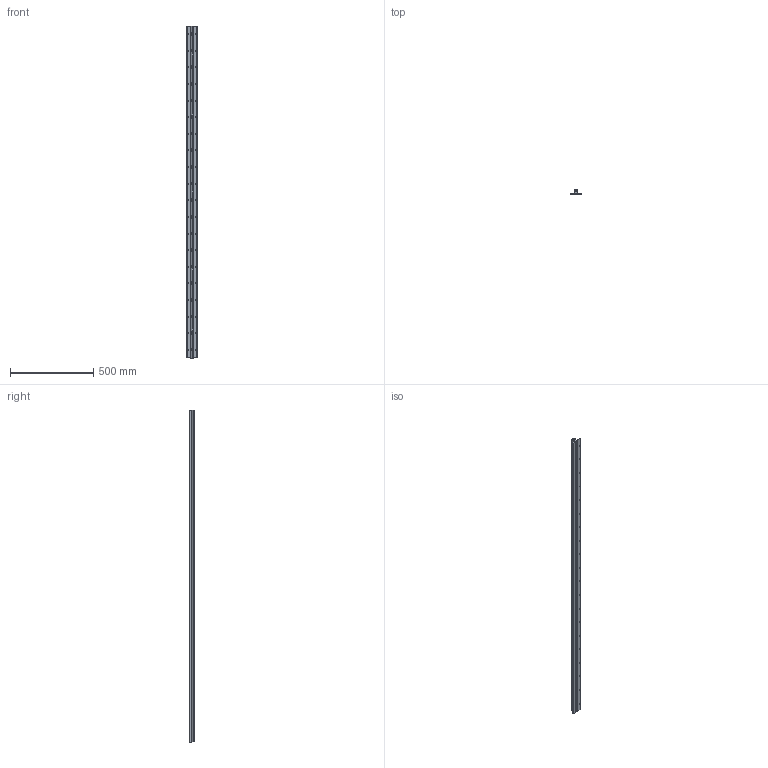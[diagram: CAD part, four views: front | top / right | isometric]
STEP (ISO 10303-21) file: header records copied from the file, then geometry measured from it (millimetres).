
FILE_DESCRIPTION (( 'STEP AP203' ), '1' );
FILE_NAME ('LF 2_-_LF 2 1998 mm lang.step', '2005-06-03T06:15:59', ( ' ' ), ( ' ' ), 'SwSTEP 2.0', 'SolidWorks 2004231', '' );
FILE_SCHEMA (( 'CONFIG_CONTROL_DESIGN' ));
Length unit declared in the file: millimetre
Products named in the file (1): LF 2_-_LF 2  1998 mm lang
Bounding box: 62 x 31 x 1998 mm (x, y, z)
Volume: 1390581.4 mm3; surface area: 451311.9 mm2
Topology: 1 solids, 1 shells, 1041 faces, 2718 edges, 1638 vertices
Faces by surface type: cylinder 530, plane 351, cone 80, torus 80
Entity records: 32101 total; most frequent: CARTESIAN_POINT 8518, ORIENTED_EDGE 5276, DIRECTION 4506, EDGE_CURVE 2638, VERTEX_POINT 1638, AXIS2_PLACEMENT_3D 1626, VECTOR 1254, LINE 1254
